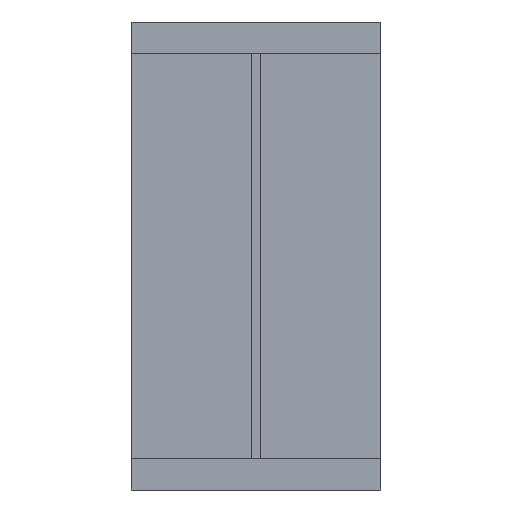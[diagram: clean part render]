
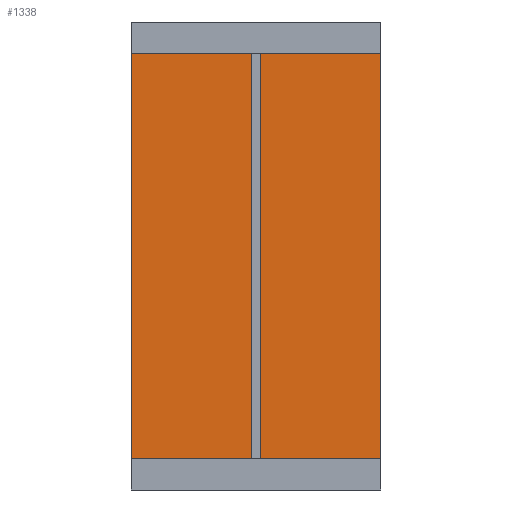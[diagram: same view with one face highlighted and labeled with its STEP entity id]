
A CAD part, front view. The second image highlights one B-rep face of the part: STEP entity #1338.
In plain terms, the highlighted planar face has unit normal (0, -1, 0).
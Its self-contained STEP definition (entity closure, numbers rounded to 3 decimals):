
#2 = AXIS2_PLACEMENT_3D ( 'NONE', #848, #723, #1055 ) ;
#5 = EDGE_CURVE ( 'NONE', #398, #1239, #851, .T. ) ;
#11 = CARTESIAN_POINT ( 'NONE',  ( 400., 520., 100. ) ) ;
#18 = ORIENTED_EDGE ( 'NONE', *, *, #5, .F. ) ;
#43 = VECTOR ( 'NONE', #859, 1000. ) ;
#47 = CARTESIAN_POINT ( 'NONE',  ( 390., 520., 1400. ) ) ;
#64 = ORIENTED_EDGE ( 'NONE', *, *, #445, .F. ) ;
#78 = LINE ( 'NONE', #1448, #1481 ) ;
#112 = VECTOR ( 'NONE', #196, 1000. ) ;
#137 = ORIENTED_EDGE ( 'NONE', *, *, #1187, .F. ) ;
#148 = CARTESIAN_POINT ( 'NONE',  ( 400., 520., 1400. ) ) ;
#167 = CARTESIAN_POINT ( 'NONE',  ( -390., 520., 100. ) ) ;
#171 = CARTESIAN_POINT ( 'NONE',  ( 390., 520., 1500. ) ) ;
#173 = ORIENTED_EDGE ( 'NONE', *, *, #833, .F. ) ;
#174 = CARTESIAN_POINT ( 'NONE',  ( -390., 520., 1400. ) ) ;
#192 = EDGE_CURVE ( 'NONE', #701, #398, #78, .T. ) ;
#196 = DIRECTION ( 'NONE',  ( 1., 0., 0. ) ) ;
#201 = VECTOR ( 'NONE', #1287, 1000. ) ;
#209 = CARTESIAN_POINT ( 'NONE',  ( -390., 520., 0. ) ) ;
#215 = LINE ( 'NONE', #442, #201 ) ;
#231 = LINE ( 'NONE', #689, #440 ) ;
#239 = DIRECTION ( 'NONE',  ( 0., 0., 1. ) ) ;
#248 = LINE ( 'NONE', #11, #733 ) ;
#253 = VECTOR ( 'NONE', #283, 1000. ) ;
#262 = LINE ( 'NONE', #722, #43 ) ;
#275 = CARTESIAN_POINT ( 'NONE',  ( -400., 520., 100. ) ) ;
#283 = DIRECTION ( 'NONE',  ( 0., 0., 1. ) ) ;
#313 = VERTEX_POINT ( 'NONE', #841 ) ;
#323 = EDGE_CURVE ( 'NONE', #411, #331, #262, .T. ) ;
#331 = VERTEX_POINT ( 'NONE', #1315 ) ;
#343 = EDGE_CURVE ( 'NONE', #537, #571, #386, .T. ) ;
#349 = CARTESIAN_POINT ( 'NONE',  ( -390., 520., 1500. ) ) ;
#379 = ORIENTED_EDGE ( 'NONE', *, *, #634, .F. ) ;
#386 = LINE ( 'NONE', #171, #412 ) ;
#398 = VERTEX_POINT ( 'NONE', #949 ) ;
#411 = VERTEX_POINT ( 'NONE', #1412 ) ;
#412 = VECTOR ( 'NONE', #630, 1000. ) ;
#440 = VECTOR ( 'NONE', #1156, 1000. ) ;
#442 = CARTESIAN_POINT ( 'NONE',  ( 390., 520., 1400. ) ) ;
#445 = EDGE_CURVE ( 'NONE', #331, #1212, #1377, .T. ) ;
#448 = CARTESIAN_POINT ( 'NONE',  ( -400., 520., 100. ) ) ;
#456 = EDGE_CURVE ( 'NONE', #571, #565, #215, .T. ) ;
#537 = VERTEX_POINT ( 'NONE', #1427 ) ;
#565 = VERTEX_POINT ( 'NONE', #148 ) ;
#571 = VERTEX_POINT ( 'NONE', #47 ) ;
#573 = CARTESIAN_POINT ( 'NONE',  ( 400., 520., 100. ) ) ;
#575 = PLANE ( 'NONE',  #2 ) ;
#630 = DIRECTION ( 'NONE',  ( 0., 0., -1. ) ) ;
#634 = EDGE_CURVE ( 'NONE', #1420, #411, #248, .T. ) ;
#636 = VECTOR ( 'NONE', #862, 1000. ) ;
#675 = CARTESIAN_POINT ( 'NONE',  ( -390., 520., 0. ) ) ;
#689 = CARTESIAN_POINT ( 'NONE',  ( -390., 520., 1500. ) ) ;
#701 = VERTEX_POINT ( 'NONE', #275 ) ;
#705 = DIRECTION ( 'NONE',  ( -1., 0., 0. ) ) ;
#709 = LINE ( 'NONE', #448, #1009 ) ;
#722 = CARTESIAN_POINT ( 'NONE',  ( 390., 520., 100. ) ) ;
#723 = DIRECTION ( 'NONE',  ( 0., -1., 0. ) ) ;
#733 = VECTOR ( 'NONE', #822, 1000. ) ;
#772 = ORIENTED_EDGE ( 'NONE', *, *, #456, .F. ) ;
#807 = EDGE_CURVE ( 'NONE', #313, #701, #709, .T. ) ;
#822 = DIRECTION ( 'NONE',  ( -1., 0., 0. ) ) ;
#833 = EDGE_CURVE ( 'NONE', #1162, #537, #231, .T. ) ;
#841 = CARTESIAN_POINT ( 'NONE',  ( -390., 520., 100. ) ) ;
#848 = CARTESIAN_POINT ( 'NONE',  ( 0., 520., 0. ) ) ;
#851 = LINE ( 'NONE', #174, #112 ) ;
#859 = DIRECTION ( 'NONE',  ( 0., 0., -1. ) ) ;
#862 = DIRECTION ( 'NONE',  ( 0., 0., -1. ) ) ;
#863 = ORIENTED_EDGE ( 'NONE', *, *, #1116, .F. ) ;
#905 = ORIENTED_EDGE ( 'NONE', *, *, #807, .F. ) ;
#926 = LINE ( 'NONE', #349, #1035 ) ;
#949 = CARTESIAN_POINT ( 'NONE',  ( -400., 520., 1400. ) ) ;
#1004 = CARTESIAN_POINT ( 'NONE',  ( -390., 520., 1400. ) ) ;
#1009 = VECTOR ( 'NONE', #705, 1000. ) ;
#1015 = ORIENTED_EDGE ( 'NONE', *, *, #323, .F. ) ;
#1035 = VECTOR ( 'NONE', #239, 1000. ) ;
#1055 = DIRECTION ( 'NONE',  ( 0., 0., -1. ) ) ;
#1061 = DIRECTION ( 'NONE',  ( -1., 0., 0. ) ) ;
#1084 = LINE ( 'NONE', #167, #253 ) ;
#1102 = EDGE_CURVE ( 'NONE', #1239, #1162, #926, .T. ) ;
#1116 = EDGE_CURVE ( 'NONE', #1212, #313, #1084, .T. ) ;
#1156 = DIRECTION ( 'NONE',  ( 1., 0., 0. ) ) ;
#1162 = VERTEX_POINT ( 'NONE', #1424 ) ;
#1187 = EDGE_CURVE ( 'NONE', #565, #1420, #1443, .T. ) ;
#1202 = VECTOR ( 'NONE', #1061, 1000. ) ;
#1212 = VERTEX_POINT ( 'NONE', #675 ) ;
#1239 = VERTEX_POINT ( 'NONE', #1004 ) ;
#1287 = DIRECTION ( 'NONE',  ( 1., 0., 0. ) ) ;
#1315 = CARTESIAN_POINT ( 'NONE',  ( 390., 520., 0. ) ) ;
#1338 = ADVANCED_FACE ( 'NONE', ( #1433 ), #575, .T. ) ;
#1340 = ORIENTED_EDGE ( 'NONE', *, *, #1102, .F. ) ;
#1347 = DIRECTION ( 'NONE',  ( 0., 0., 1. ) ) ;
#1355 = EDGE_LOOP ( 'NONE', ( #1370, #905, #863, #64, #1015, #379, #137, #772, #1479, #173, #1340, #18 ) ) ;
#1370 = ORIENTED_EDGE ( 'NONE', *, *, #192, .F. ) ;
#1377 = LINE ( 'NONE', #209, #1202 ) ;
#1412 = CARTESIAN_POINT ( 'NONE',  ( 390., 520., 100. ) ) ;
#1420 = VERTEX_POINT ( 'NONE', #573 ) ;
#1424 = CARTESIAN_POINT ( 'NONE',  ( -390., 520., 1500. ) ) ;
#1427 = CARTESIAN_POINT ( 'NONE',  ( 390., 520., 1500. ) ) ;
#1428 = CARTESIAN_POINT ( 'NONE',  ( 400., 520., 1400. ) ) ;
#1433 = FACE_OUTER_BOUND ( 'NONE', #1355, .T. ) ;
#1443 = LINE ( 'NONE', #1428, #636 ) ;
#1448 = CARTESIAN_POINT ( 'NONE',  ( -400., 520., 1400. ) ) ;
#1479 = ORIENTED_EDGE ( 'NONE', *, *, #343, .F. ) ;
#1481 = VECTOR ( 'NONE', #1347, 1000. ) ;
